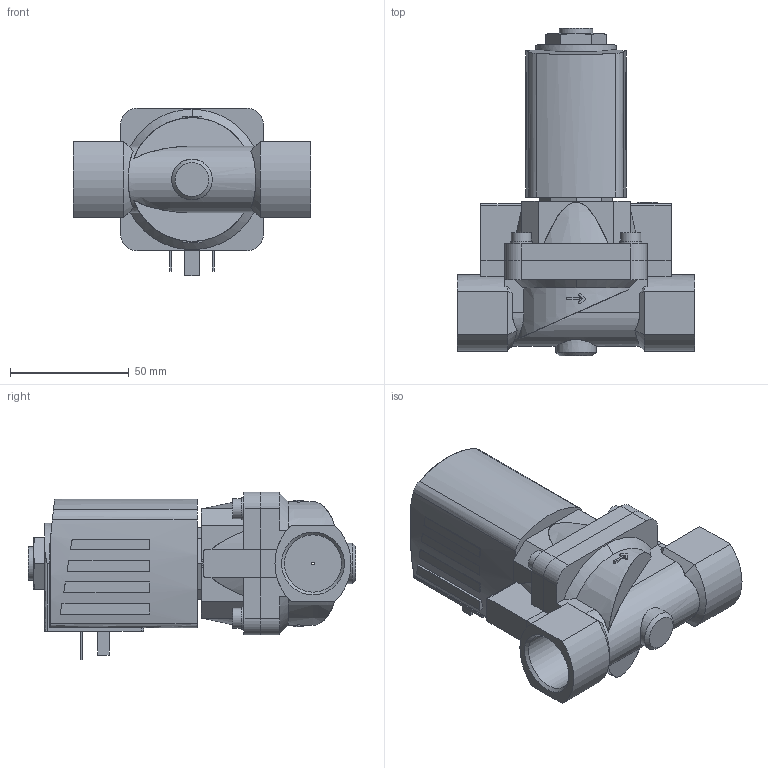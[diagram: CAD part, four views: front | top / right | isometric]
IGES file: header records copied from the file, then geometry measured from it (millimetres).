
Start section: Data from Parasolid IGES Translator 26.0.171, Copyright(c) 2006 Siemens PLM Software. All Rights Reserved.
Global section: file name: 6407-380163-Servo-assisted_2_2_way_piston_valve.igs; native system: By Siemens PLM Incorporated; preprocessor: XPlus GENERIC/IGES 26.0.171; author: Noname; organization: Noname; date: 20240702.123030; units: millimetre
Bounding box: 100 x 137.7 x 70.5 mm (x, y, z)
Surface area: 52326 mm2 (no closed solid volume)
Topology: 0 solids, 0 shells, 279 faces, 1486 edges, 1479 vertices
Faces by surface type: extrusion 178, revolution 101
